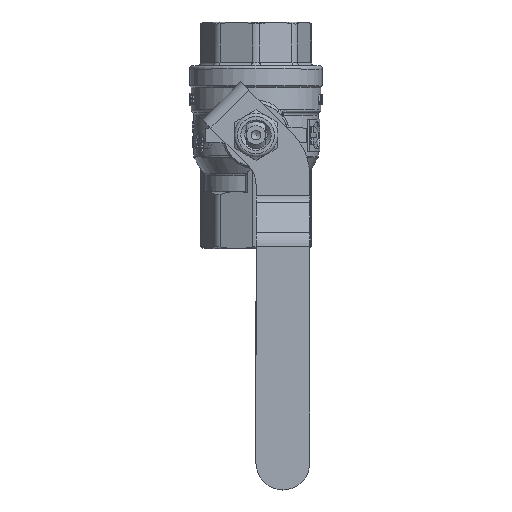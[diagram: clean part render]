
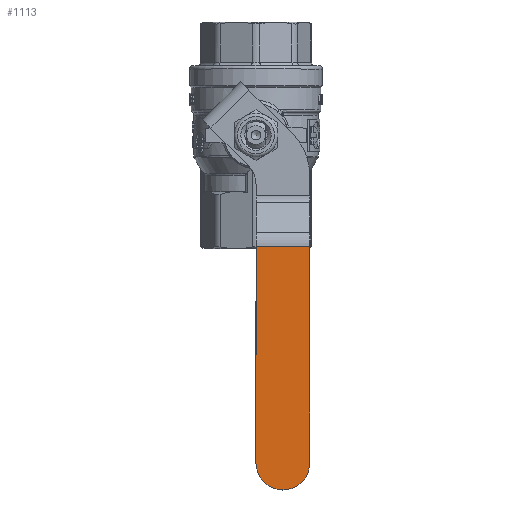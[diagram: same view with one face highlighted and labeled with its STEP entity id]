
A CAD part, top view. The second image highlights one B-rep face of the part: STEP entity #1113.
In plain terms, the highlighted planar face has unit normal (0, 0, 1).
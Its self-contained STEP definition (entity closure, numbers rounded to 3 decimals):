
#1113=ADVANCED_FACE('',(#8813),#8815,.T.);
#8813=FACE_BOUND('',#8814,.T.);
#8814=EDGE_LOOP('',(#16242,#16243,#16244,#16245));
#8815=PLANE('',#8816);
#8816=AXIS2_PLACEMENT_3D('',#8817,#8818,#8819);
#8817=CARTESIAN_POINT('',(0.,-13.851,49.885));
#8818=DIRECTION('',(0.,0.,1.));
#8819=DIRECTION('',(0.,-1.,0.));
#16242=ORIENTED_EDGE('',*,*,#19240,.F.);
#16243=ORIENTED_EDGE('',*,*,#19237,.T.);
#16244=ORIENTED_EDGE('',*,*,#19229,.T.);
#16245=ORIENTED_EDGE('',*,*,#19239,.T.);
#19229=EDGE_CURVE('',#24026,#24034,#24037,.T.);
#19237=EDGE_CURVE('',#24044,#24026,#24046,.T.);
#19239=EDGE_CURVE('',#24034,#24047,#24049,.T.);
#19240=EDGE_CURVE('',#24044,#24047,#24050,.F.);
#24026=VERTEX_POINT('',#49755);
#24034=VERTEX_POINT('',#49775);
#24037=LINE('',#49783,#49784);
#24044=VERTEX_POINT('',#49810);
#24046=LINE('',#49814,#49815);
#24047=VERTEX_POINT('',#49817);
#24049=LINE('',#49821,#49822);
#24050=CIRCLE('',#49824,8.);
#49755=CARTESIAN_POINT('',(16.,-50.963,49.885));
#49775=CARTESIAN_POINT('',(0.,-50.963,49.885));
#49783=CARTESIAN_POINT('',(16.,-50.963,49.885));
#49784=VECTOR('',#49785,1.);
#49785=DIRECTION('',(-1.,0.,0.));
#49810=CARTESIAN_POINT('',(16.,-115.478,49.885));
#49814=CARTESIAN_POINT('',(16.,-115.478,49.885));
#49815=VECTOR('',#49816,1.);
#49816=DIRECTION('',(0.,1.,0.));
#49817=CARTESIAN_POINT('',(0.,-115.478,49.885));
#49821=CARTESIAN_POINT('',(0.,-50.963,49.885));
#49822=VECTOR('',#49823,1.);
#49823=DIRECTION('',(0.,-1.,0.));
#49824=AXIS2_PLACEMENT_3D('',#49825,#49826,#49827);
#49825=CARTESIAN_POINT('',(8.,-115.478,49.885));
#49826=DIRECTION('',(0.,0.,1.));
#49827=DIRECTION('',(-1.,0.,0.));
